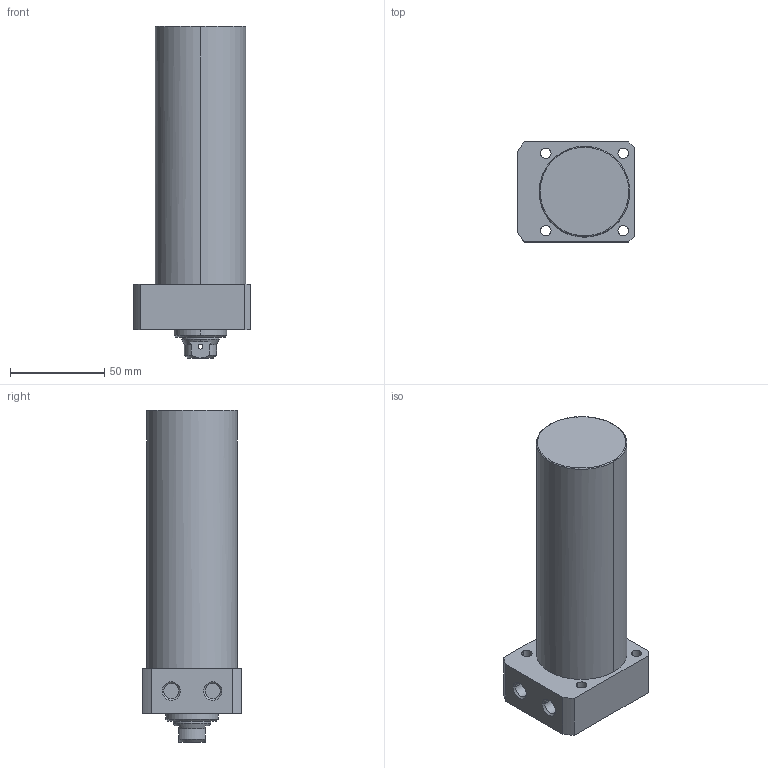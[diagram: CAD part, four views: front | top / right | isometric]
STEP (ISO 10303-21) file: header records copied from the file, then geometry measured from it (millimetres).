
FILE_DESCRIPTION((' '),'2;1');
FILE_NAME( 'TLLR-048CB-110.STEP.stp', '2025-10-24T16:34:34', (' '), ('--- Datakit www.datakit.com---'), ' Datakit CrossCadWare V2024.1 Dec 21 2023', 'Mastercam 2025', ' ');
FILE_SCHEMA(('AUTOMOTIVE_DESIGN { 1 0 10303 214 1 1 1 1 }'));
Length unit declared in the file: millimetre
Products named in the file (1): TLLR-048CB-110
Bounding box: 62 x 53 x 176 mm (x, y, z)
Volume: 326223.5 mm3; surface area: 36061.2 mm2
Topology: 1 solids, 1 shells, 67 faces, 197 edges, 136 vertices
Faces by surface type: cylinder 32, plane 19, cone 14, torus 2
Entity records: 3066 total; most frequent: CARTESIAN_POINT 1147, DIRECTION 426, ORIENTED_EDGE 390, EDGE_CURVE 195, AXIS2_PLACEMENT_3D 179, VERTEX_POINT 136, CIRCLE 111, EDGE_LOOP 85
